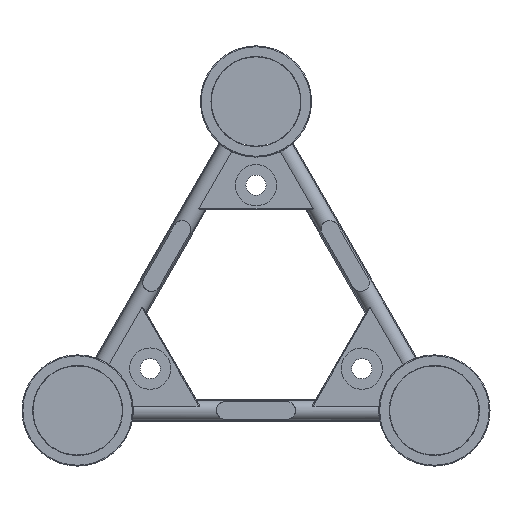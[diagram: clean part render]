
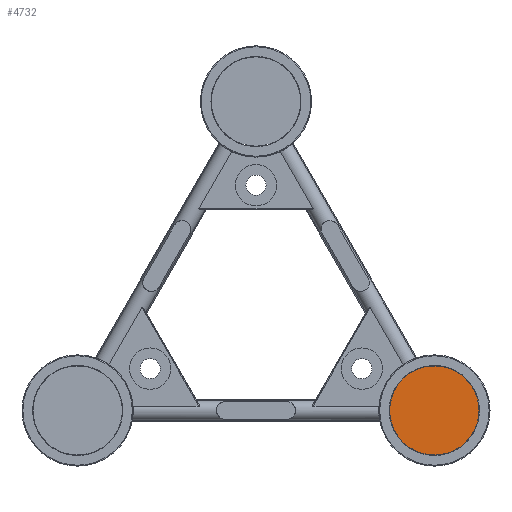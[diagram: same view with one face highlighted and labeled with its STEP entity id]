
A CAD part, left-side view. The second image highlights one B-rep face of the part: STEP entity #4732.
In plain terms, the highlighted planar face has unit normal (-1, 0, 0).
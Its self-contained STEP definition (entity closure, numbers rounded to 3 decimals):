
#495=CIRCLE('',#5228,25.4);
#913=FACE_OUTER_BOUND('',#1330,.T.);
#1330=EDGE_LOOP('',(#3978));
#2228=VERTEX_POINT('',#9211);
#2804=EDGE_CURVE('',#2228,#2228,#495,.T.);
#3978=ORIENTED_EDGE('',*,*,#2804,.F.);
#4162=PLANE('',#5231);
#4732=ADVANCED_FACE('',(#913),#4162,.T.);
#5228=AXIS2_PLACEMENT_3D('',#9212,#6453,#6454);
#5231=AXIS2_PLACEMENT_3D('',#9215,#6459,#6460);
#6453=DIRECTION('center_axis',(1.,0.,0.));
#6454=DIRECTION('ref_axis',(0.,-0.707,0.707));
#6459=DIRECTION('center_axis',(-1.,0.,0.));
#6460=DIRECTION('ref_axis',(0.,-0.707,0.707));
#9211=CARTESIAN_POINT('',(0.,17.961,-17.961));
#9212=CARTESIAN_POINT('Origin',(0.,0.,
0.));
#9215=CARTESIAN_POINT('Origin',(0.,0.,
0.));
